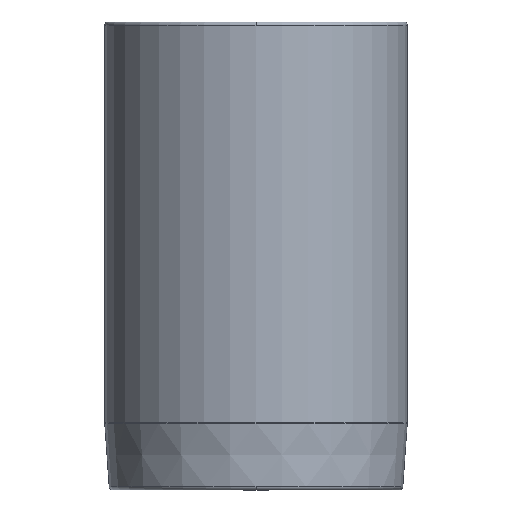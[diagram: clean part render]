
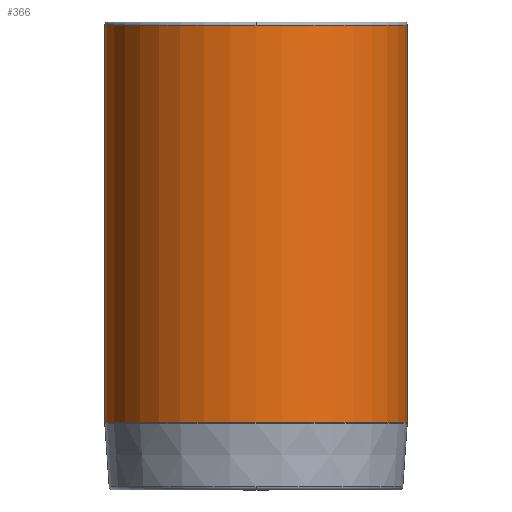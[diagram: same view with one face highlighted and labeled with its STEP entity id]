
A CAD part, front view. The second image highlights one B-rep face of the part: STEP entity #366.
In plain terms, the highlighted cylindrical face has radius 22.625 mm (diameter 45.25 mm), a partial arc.
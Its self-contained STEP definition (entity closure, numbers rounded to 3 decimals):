
#271=CARTESIAN_POINT('',(0.0,-22.625,33.5));
#272=VERTEX_POINT('',#271);
#298=CARTESIAN_POINT('',(-22.625,0.,33.5));
#299=VERTEX_POINT('',#298);
#307=CARTESIAN_POINT('',(0.0,0.,33.5));
#308=DIRECTION('',(0.0,0.0,1.0));
#309=DIRECTION('',(1.0,0.0,0.0));
#310=AXIS2_PLACEMENT_3D('',#307,#308,#309);
#311=CIRCLE('',#310,22.625);
#312=EDGE_CURVE('',#299,#272,#311,.T.);
#317=CARTESIAN_POINT('',(0.0,0.,3.767));
#318=DIRECTION('',(0.0,0.,1.0));
#319=DIRECTION('',(1.0,0.0,0.0));
#320=AXIS2_PLACEMENT_3D('',#317,#318,#319);
#321=CYLINDRICAL_SURFACE('',#320,22.625);
#322=CARTESIAN_POINT('',(22.625,0.,33.5));
#323=VERTEX_POINT('',#322);
#324=CARTESIAN_POINT('',(22.625,0.,-25.965));
#325=VERTEX_POINT('',#324);
#326=CARTESIAN_POINT('',(22.625,0.,33.5));
#327=DIRECTION('',(0.0,0.0,-1.0));
#328=VECTOR('',#327,59.465);
#329=LINE('',#326,#328);
#330=EDGE_CURVE('',#323,#325,#329,.T.);
#331=ORIENTED_EDGE('',*,*,#330,.F.);
#332=CARTESIAN_POINT('',(0.0,0.,33.5));
#333=DIRECTION('',(0.0,0.0,1.0));
#334=DIRECTION('',(1.0,0.0,0.0));
#335=AXIS2_PLACEMENT_3D('',#332,#333,#334);
#336=CIRCLE('',#335,22.625);
#337=EDGE_CURVE('',#272,#323,#336,.T.);
#338=ORIENTED_EDGE('',*,*,#337,.F.);
#339=ORIENTED_EDGE('',*,*,#312,.F.);
#340=CARTESIAN_POINT('',(-22.625,0.,-25.965));
#341=VERTEX_POINT('',#340);
#342=CARTESIAN_POINT('',(-22.625,0.,33.5));
#343=DIRECTION('',(0.0,0.0,-1.0));
#344=VECTOR('',#343,59.465);
#345=LINE('',#342,#344);
#346=EDGE_CURVE('',#299,#341,#345,.T.);
#347=ORIENTED_EDGE('',*,*,#346,.T.);
#348=CARTESIAN_POINT('',(0.0,-22.625,-25.965));
#349=VERTEX_POINT('',#348);
#350=CARTESIAN_POINT('',(0.0,0.,-25.965));
#351=DIRECTION('',(0.0,0.0,1.0));
#352=DIRECTION('',(1.0,0.0,0.0));
#353=AXIS2_PLACEMENT_3D('',#350,#351,#352);
#354=CIRCLE('',#353,22.625);
#355=EDGE_CURVE('',#341,#349,#354,.T.);
#356=ORIENTED_EDGE('',*,*,#355,.T.);
#357=CARTESIAN_POINT('',(0.0,0.,-25.965));
#358=DIRECTION('',(0.0,0.0,1.0));
#359=DIRECTION('',(1.0,0.0,0.0));
#360=AXIS2_PLACEMENT_3D('',#357,#358,#359);
#361=CIRCLE('',#360,22.625);
#362=EDGE_CURVE('',#349,#325,#361,.T.);
#363=ORIENTED_EDGE('',*,*,#362,.T.);
#364=EDGE_LOOP('',(#331,#338,#339,#347,#356,#363));
#365=FACE_OUTER_BOUND('',#364,.T.);
#366=ADVANCED_FACE('',(#365),#321,.T.);
